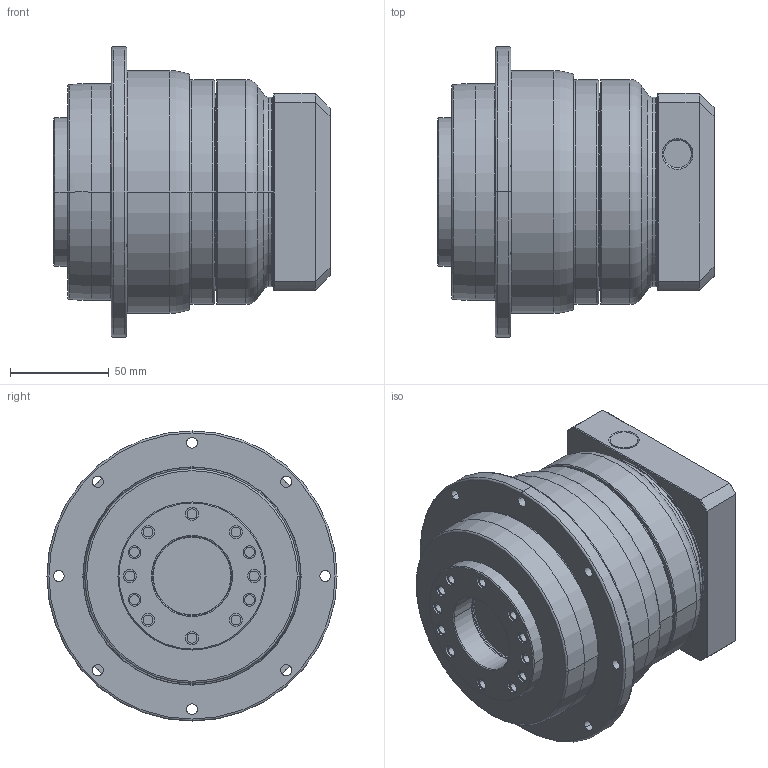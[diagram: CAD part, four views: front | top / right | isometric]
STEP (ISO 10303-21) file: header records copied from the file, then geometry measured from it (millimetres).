
FILE_DESCRIPTION((''),'2;1');
FILE_NAME('PD110_1ST_24-P0411500101_ASM','2016-06-02T',('d01943'),(''),'PRO/ENGINEER BY PARAMETRIC TECHNOLOGY CORPORATION, 2008410','PRO/ENGINEER BY PARAMETRIC TECHNOLOGY CORPORATION, 2008410','');
FILE_SCHEMA(('CONFIG_CONTROL_DESIGN'));
Length unit declared in the file: millimetre
Products named in the file (8): P1355400001; P0367400001; P0274400001; P1324400101; P0411500101; P0503500008; P0941401001; PD110_1ST_24-P0411500101_ASM
Assembly tree (7 placements, depth 2):
  PD110_1ST_24-P0411500101_ASM
    P1355400001
    P0367400001
    P0274400001
    P1324400101
    P0411500101
    P0503500008
    P0941401001
Bounding box: 139.93 x 147 x 147 mm (x, y, z)
Volume: 1323367.2 mm3; surface area: 199813.9 mm2
Topology: 7 solids, 7 shells, 381 faces, 865 edges, 518 vertices
Faces by surface type: cylinder 146, cone 84, plane 69, torus 68, bspline 14
Entity records: 15261 total; most frequent: CARTESIAN_POINT 6340, DIRECTION 2009, ORIENTED_EDGE 1698, AXIS2_PLACEMENT_3D 863, EDGE_CURVE 849, VERTEX_POINT 518, CIRCLE 481, EDGE_LOOP 465
